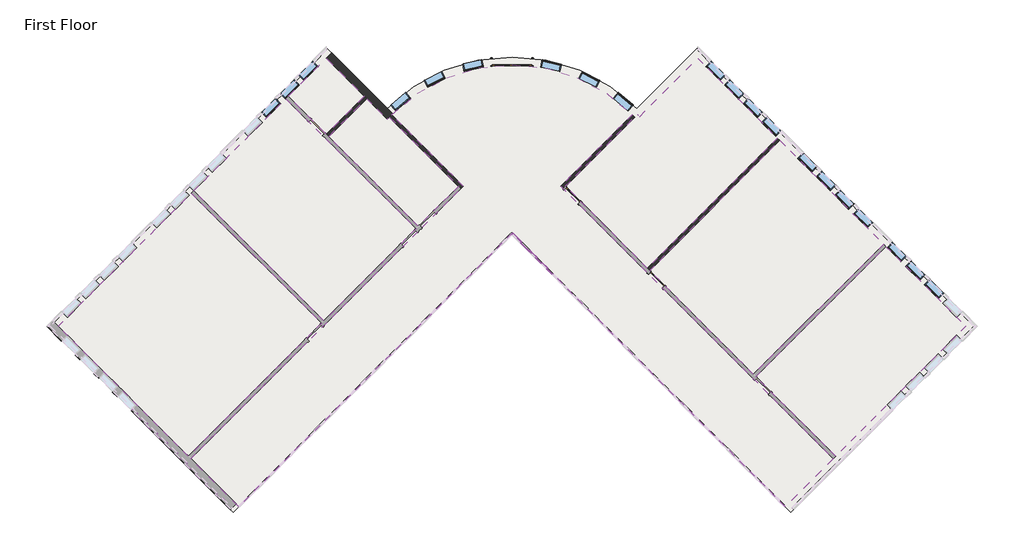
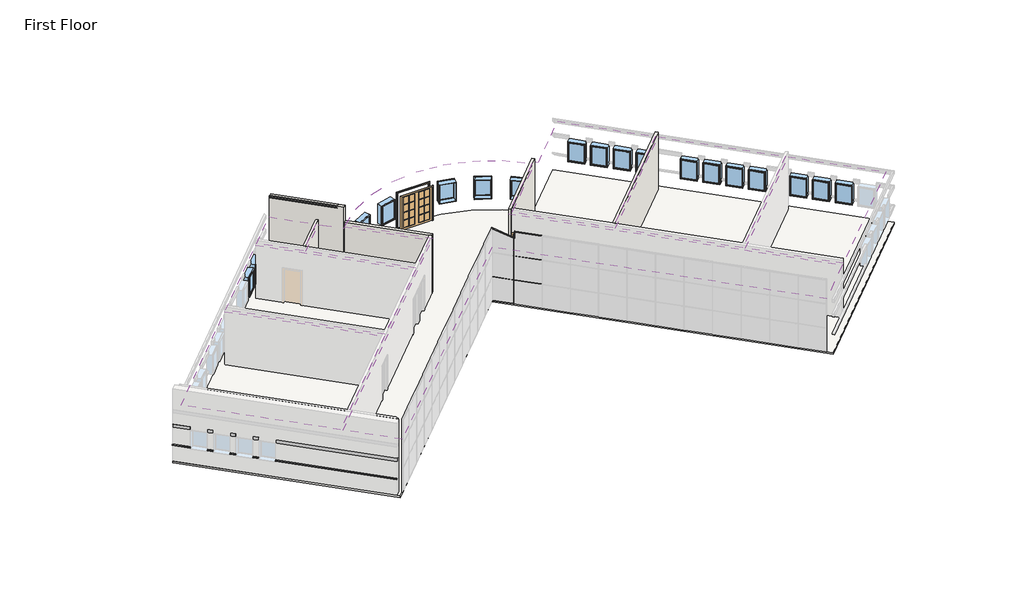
# One storey, part 4 of 5: 20 windows, 14 members, 8 coverings, 5 walls, 3 doors, 2 proxies, 1 slab.
"""IFC4 building model written with IfcOpenShell, lengths in millimetres."""

from ifc_helpers import new_model, si_unit, point, frame, frame_2d, origin, origin_with_axes, place, context, project, spatial, polyline, circle_curve, ellipse_curve, trimmed, segment, composite_curve, outline, extrude, faceted_brep, transform, mapped, element, save
from ifc_brep_helpers import plane_surface, cylinder_surface, revolved_surface, advanced_brep
from components import door_0a477ef8, door_5f5b55da, member_155beb68, member_42be4715, member_bd80eb51, member_a3731390, member_b87a50da, member_0f81cabc, member_76f0c52a, member_6675e4ca, member_9574b3de, member_b73a8a31, member_4ed907bf, window_15c49d37, window_0e2fc6ce

model = new_model("IFC4")

# Units and contexts
model_context = context("Model", 3, world=origin())
ifc_project = project(units=[si_unit("LENGTHUNIT", "METRE", prefix="MILLI")], contexts=[model_context])

# Site, building, storey
site = spatial("IfcSite", under=ifc_project)
building = spatial("IfcBuilding", under=site)
storey = spatial("IfcBuildingStorey", under=building, Name="First Floor", Elevation=0.0)

# Proxies
placement = place(None, origin())
element("IfcBuildingElementProxy", 1, Name="Wall Sweeps", at=placement, inside=storey, context=model_context, shape_type="Brep", body=[
    faceted_brep([(-15859.0913754, -9789.3274758, 1085.85), (-15924.1982323, -9854.4343326, 1085.85), (-15948.8939367, -9879.130037, 1041.4), (-15948.8939367, -9879.130037, 1016.0), (-15924.1982323, -9854.4343326, 1016.0), (-15859.0913754, -9789.3274758, 1016.0), (-20459.2275735, -5189.1912777, 1085.85), (-20459.2275735, -5189.1912777, 1016.0), (-20524.3344303, -5254.2981346, 1016.0), (-20549.0301347, -5278.993839, 1016.0), (-20549.0301347, -5278.993839, 1041.4), (-20524.3344303, -5254.2981346, 1085.85)], [[[0, 1, 2, 3, 4, 5]], [[6, 7, 8, 9, 10, 11]], [[1, 0, 6, 11]], [[2, 1, 11, 10]], [[3, 2, 10, 9]], [[5, 4, 3, 9, 8, 7]], [[0, 5, 7, 6]]]),
    faceted_brep([(-21105.8060142, -4542.612837, 1085.85), (-21170.9128711, -4607.7196939, 1085.85), (-21195.6085754, -4632.4153982, 1041.4), (-21195.6085754, -4632.4153982, 1016.0), (-21170.9128711, -4607.7196939, 1016.0), (-21105.8060142, -4542.612837, 1016.0), (-21321.3321611, -4327.0866901, 1085.85), (-21321.3321611, -4327.0866901, 1016.0), (-21386.439018, -4392.193547, 1016.0), (-21411.1347223, -4416.8892513, 1016.0), (-21411.1347223, -4416.8892513, 1041.4), (-21386.439018, -4392.193547, 1085.85)], [[[0, 1, 2, 3, 4, 5]], [[6, 7, 8, 9, 10, 11]], [[1, 0, 6, 11]], [[2, 1, 11, 10]], [[3, 2, 10, 9]], [[5, 4, 3, 9, 8, 7]], [[0, 5, 7, 6]]]),
    faceted_brep([(-21967.9106018, -3680.5082494, 1085.85), (-22033.0174587, -3745.6151063, 1085.85), (-22057.713163, -3770.3108106, 1041.4), (-22057.713163, -3770.3108106, 1016.0), (-22033.0174587, -3745.6151063, 1016.0), (-21967.9106018, -3680.5082494, 1016.0), (-22183.4367487, -3464.9821025, 1085.85), (-22183.4367487, -3464.9821025, 1016.0), (-22248.5436056, -3530.0889594, 1016.0), (-22273.2393099, -3554.7846637, 1016.0), (-22273.2393099, -3554.7846637, 1041.4), (-22248.5436056, -3530.0889594, 1085.85)], [[[0, 1, 2, 3, 4, 5]], [[6, 7, 8, 9, 10, 11]], [[1, 0, 6, 11]], [[2, 1, 11, 10]], [[3, 2, 10, 9]], [[5, 4, 3, 9, 8, 7]], [[0, 5, 7, 6]]]),
    faceted_brep([(-22830.0151894, -2818.4036618, 1085.85), (-22895.1220463, -2883.5105187, 1085.85), (-22919.8177506, -2908.206223, 1041.4), (-22919.8177506, -2908.206223, 1016.0), (-22895.1220463, -2883.5105187, 1016.0), (-22830.0151894, -2818.4036618, 1016.0), (-23045.5413363, -2602.8775149, 1085.85), (-23045.5413363, -2602.8775149, 1016.0), (-23110.6481932, -2667.9843718, 1016.0), (-23135.3438975, -2692.6800761, 1016.0), (-23135.3438975, -2692.6800761, 1041.4), (-23110.6481932, -2667.9843718, 1085.85)], [[[0, 1, 2, 3, 4, 5]], [[6, 7, 8, 9, 10, 11]], [[1, 0, 6, 11]], [[2, 1, 11, 10]], [[3, 2, 10, 9]], [[5, 4, 3, 9, 8, 7]], [[0, 5, 7, 6]]]),
    faceted_brep([(-23692.119777, -1956.2990742, 1085.85), (-23757.2266339, -2021.405931, 1085.85), (-23781.9223383, -2046.1016354, 1041.4), (-23781.9223383, -2046.1016354, 1016.0), (-23757.2266339, -2021.405931, 1016.0), (-23692.119777, -1956.2990742, 1016.0), (-24290.4293411, -1357.9895101, 1085.85), (-24290.4293411, -1357.9895101, 1016.0), (-24470.0344635, -1357.9895101, 1016.0), (-24470.0344635, -1357.9895101, 1041.4), (-24420.6430549, -1357.9895101, 1085.85)], [[[0, 1, 2, 3, 4, 5]], [[6, 7, 8, 9, 10]], [[1, 0, 6, 10]], [[2, 1, 10, 9]], [[3, 2, 9, 8]], [[5, 4, 3, 8, 7]], [[0, 5, 7, 6]]]),
])
element("IfcBuildingElementProxy", 2, Name="Wall Sweeps", at=placement, inside=storey, context=model_context, shape_type="SweptSolid", body=[
    extrude(outline(polyline([(-15859.0913754, -9789.3274758), (-15924.1982323, -9854.4343326), (-20524.3344303, -5254.2981346), (-20459.2275735, -5189.1912777), (-15859.0913754, -9789.3274758)])), frame((0.0, 0.0, 2133.6), z_axis=(0.0, 0.0, 1.0), x_axis=(1.0, 0.0, 0.0)), (0.0, 0.0, 1.0), 203.2),
    extrude(outline(polyline([(-21105.8060142, -4542.612837), (-21170.9128711, -4607.7196939), (-21386.439018, -4392.193547), (-21321.3321611, -4327.0866901), (-21105.8060142, -4542.612837)])), frame((0.0, 0.0, 2133.6), z_axis=(0.0, 0.0, 1.0), x_axis=(1.0, 0.0, 0.0)), (0.0, 0.0, 1.0), 203.2),
    extrude(outline(polyline([(-21967.9106018, -3680.5082494), (-22033.0174587, -3745.6151063), (-22248.5436056, -3530.0889594), (-22183.4367487, -3464.9821025), (-21967.9106018, -3680.5082494)])), frame((0.0, 0.0, 2133.6), z_axis=(0.0, 0.0, 1.0), x_axis=(1.0, 0.0, 0.0)), (0.0, 0.0, 1.0), 203.2),
    extrude(outline(polyline([(-22830.0151894, -2818.4036618), (-22895.1220463, -2883.5105187), (-23110.6481932, -2667.9843718), (-23045.5413363, -2602.8775149), (-22830.0151894, -2818.4036618)])), frame((0.0, 0.0, 2133.6), z_axis=(0.0, 0.0, 1.0), x_axis=(1.0, 0.0, 0.0)), (0.0, 0.0, 1.0), 203.2),
    extrude(outline(polyline([(-23692.119777, -1956.2990742), (-23757.2266339, -2021.405931), (-24420.6430549, -1357.9895101), (-24290.4293411, -1357.9895101), (-23692.119777, -1956.2990742)])), frame((0.0, 0.0, 2133.6), z_axis=(0.0, 0.0, 1.0), x_axis=(1.0, 0.0, 0.0)), (0.0, 0.0, 1.0), 203.2),
])

# Coverings
element("IfcCovering", 3, ObjectType="2' x 2' ACT System", at=placement, inside=storey, context=model_context, shape_type="SweptSolid", body=[
    extrude(outline(polyline([(-11706.7276692, -1216.4326939), (-17885.2616628, -7394.9666875), (-23922.2388402, -1357.9895101), (-17743.7048466, 4820.5444835), (-11706.7276692, -1216.4326939)])), frame((0.0, 0.0, 3352.8), z_axis=(0.0, 0.0, 1.0), x_axis=(1.0, 0.0, 0.0)), (0.0, 0.0, 1.0), 57.15),
])
element("IfcCovering", 4, ObjectType="2' x 2' ACT System", at=placement, inside=storey, context=model_context, shape_type="SweptSolid", body=[
    extrude(outline(polyline([(-17633.6967091, 4930.552621), (-13359.2125777, 9205.0367523), (-7322.2354004, 3168.0595749), (-11596.7195317, -1106.4245564), (-17633.6967091, 4930.552621)])), frame((0.0, 0.0, 3352.8), z_axis=(0.0, 0.0, 1.0), x_axis=(1.0, 0.0, 0.0)), (0.0, 0.0, 1.0), 57.15),
])
element("IfcCovering", 5, ObjectType="2' x 2' ACT System", at=placement, inside=storey, context=model_context, shape_type="SweptSolid", body=[
    extrude(outline(polyline([(-13249.2044403, 9315.0448898), (-11489.0742405, 11075.1750895), (-9728.9440408, 9315.0448898), (-11489.0742405, 7554.9146901), (-13249.2044403, 9315.0448898)])), frame((0.0, 0.0, 3352.8), z_axis=(0.0, 0.0, 1.0), x_axis=(1.0, 0.0, 0.0)), (0.0, 0.0, 1.0), 57.15),
])
element("IfcCovering", 6, ObjectType="2' x 2' ACT System", at=placement, inside=storey, context=model_context, shape_type="SweptSolid", body=[
    extrude(outline(composite_curve([segment(polyline([(-11379.066103, 7444.9065526), (-9618.9359033, 9205.0367523), (-8658.0122729, 8244.1131219)]), True, "CONTINUOUS"), segment(trimmed(circle_curve(frame_2d((-2868.0283643, 2903.1420194)), 7877.175), [point((-8658.0122729, 8244.1131219))], [point((-8557.7157352, 8350.8336041))], False, "CARTESIAN"), True, "CONTINUOUS"), segment(polyline([(-8557.7157352, 8350.8336041), (-5348.5885532, 5141.7064221), (-7212.2272629, 3278.0677124), (-11379.066103, 7444.9065526)]), True, "CONTINUOUS")], self_intersect=False)), frame((0.0, 0.0, 3352.8), z_axis=(0.0, 0.0, 1.0), x_axis=(1.0, 0.0, 0.0)), (0.0, 0.0, 1.0), 57.15),
])
element("IfcCovering", 7, ObjectType="2' x 2' ACT System", at=placement, inside=storey, context=model_context, shape_type="SweptSolid", body=[
    extrude(outline(composite_curve([segment(polyline([(-607.4844504, 5141.7064221), (12039.1967967, -7504.974825), (9814.3383427, -9729.833279), (-2868.0283643, 2952.533428), (-15550.3950713, -9729.833279), (-17775.2535253, -7504.974825), (-5128.5722782, 5141.7064221), (-8449.0111375, 8462.1452813)]), True, "CONTINUOUS"), segment(trimmed(circle_curve(frame_2d((-2868.0283643, 2903.1420194)), 7877.175), [point((-8449.0111375, 8462.1452813))], [point((2712.9544089, 8462.1452813))], False, "CARTESIAN"), True, "CONTINUOUS"), segment(polyline([(2712.9544089, 8462.1452813), (-607.4844504, 5141.7064221)]), True, "CONTINUOUS")], self_intersect=False)), frame((0.0, 0.0, 3352.8), z_axis=(0.0, 0.0, 1.0), x_axis=(1.0, 0.0, 0.0)), (0.0, 0.0, 1.0), 57.15),
])
element("IfcCovering", 8, ObjectType="2' x 2' ACT System", at=placement, inside=storey, context=model_context, shape_type="SweptSolid", body=[
    extrude(outline(polyline([(2947.192033, 8476.3666305), (3050.2065213, 8372.3640989), (5753.0175119, 11075.1750895), (9452.8830338, 7375.3095676), (3415.9058564, 1338.3323903), (-387.4681754, 5141.7064221), (2947.192033, 8476.3666305)])), frame((0.0, 0.0, 3352.8), z_axis=(0.0, 0.0, 1.0), x_axis=(1.0, 0.0, 0.0)), (0.0, 0.0, 1.0), 57.15),
])
element("IfcCovering", 9, ObjectType="2' x 2' ACT System", at=placement, inside=storey, context=model_context, shape_type="SweptSolid", body=[
    extrude(outline(polyline([(3525.9139939, 1228.3242528), (9562.8911713, 7265.3014302), (14376.3084522, 2451.8841493), (8339.3312748, -3585.0930281), (3525.9139939, 1228.3242528)])), frame((0.0, 0.0, 3352.8), z_axis=(0.0, 0.0, 1.0), x_axis=(1.0, 0.0, 0.0)), (0.0, 0.0, 1.0), 57.15),
])
element("IfcCovering", 10, ObjectType="2' x 2' ACT System", at=placement, inside=storey, context=model_context, shape_type="SweptSolid", body=[
    extrude(outline(polyline([(8449.3394123, -3695.1011656), (14486.3165897, 2341.8760118), (18186.1821115, -1357.9895101), (12149.2049342, -7394.9666875), (8449.3394123, -3695.1011656)])), frame((0.0, 0.0, 3352.8), z_axis=(0.0, 0.0, 1.0), x_axis=(1.0, 0.0, 0.0)), (0.0, 0.0, 1.0), 57.15),
])

# Doors
door_shape = door_0a477ef8(model_context)
element("IfcDoor", 11, ObjectType="Double-Glass 2 : 72\" x 84\"", at=placement, inside=storey, context=model_context, shape_type="MappedRepresentation", body=[
    mapped(door_shape, transform((-2868.7603243, 10905.5717204, 0.0), x_axis=(-0.9999999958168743, -9.146721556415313e-05, 0.0), y_axis=(9.146721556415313e-05, -0.9999999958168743, 0.0), z_axis=(0.0, 0.0, 1.0))),
])
door_2_shape = door_5f5b55da(model_context)
element("IfcDoor", 12, ObjectType="Single-Glass 1 : 36\" x 84\"", at=placement, inside=storey, context=model_context, shape_type="MappedRepresentation", body=[
    mapped(door_2_shape, transform((-66.4240191, 4710.6541283, 0.0), x_axis=(-0.7071067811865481, 0.7071067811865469, 0.0), y_axis=(-0.7071067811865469, -0.7071067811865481, 0.0), z_axis=(0.0, 0.0, 1.0))),
])
element("IfcDoor", 13, ObjectType="Single-Glass 1 : 36\" x 84\"", at=placement, inside=storey, context=model_context, shape_type="MappedRepresentation", body=[
    mapped(door_2_shape, transform((3846.9581502, 797.271959, 0.0), x_axis=(-0.7071067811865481, 0.7071067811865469, 0.0), y_axis=(-0.7071067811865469, -0.7071067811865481, 0.0), z_axis=(0.0, 0.0, 1.0))),
])

# Members
member_shape = member_155beb68(model_context)
element("IfcMember", 14, ObjectType="Rectangular Mullion : 1.5\" x 2.5\" Rectangular", at=placement, inside=storey, context=model_context, shape_type="MappedRepresentation", body=[
    mapped(member_shape, transform((-2039.5997371, 2124.1048009, 1524.0), x_axis=(-0.7071067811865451, 0.70710678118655, 0.0), y_axis=(0.70710678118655, 0.7071067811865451, 0.0), z_axis=(0.0, 0.0, -1.0))),
])
element("IfcMember", 15, ObjectType="Rectangular Mullion : 1.5\" x 2.5\" Rectangular", at=placement, inside=storey, context=model_context, shape_type="MappedRepresentation", body=[
    mapped(member_shape, transform((-2039.5997371, 2124.1048009, 0.0), x_axis=(-0.7071067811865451, 0.70710678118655, 0.0), y_axis=(0.70710678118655, 0.7071067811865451, 0.0), z_axis=(0.0, 0.0, -1.0))),
])
member_2_shape = member_42be4715(model_context)
element("IfcMember", 16, ObjectType="Rectangular Mullion : 1.5\" x 2.5\" Rectangular", at=placement, inside=storey, context=model_context, shape_type="MappedRepresentation", body=[
    mapped(member_2_shape, transform((-2026.129353, 2110.6344167, 3048.0), x_axis=(0.0, 0.0, 1.0), y_axis=(0.7071067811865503, 0.7071067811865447, 0.0), z_axis=(-0.7071067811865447, 0.7071067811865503, 0.0))),
])
element("IfcMember", 17, ObjectType="Rectangular Mullion : 1.5\" x 2.5\" Rectangular", at=placement, inside=storey, context=model_context, shape_type="MappedRepresentation", body=[
    mapped(member_2_shape, transform((-2026.129353, 2110.6344167, 1524.0), x_axis=(0.0, 0.0, 1.0), y_axis=(0.7071067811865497, 0.7071067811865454, 0.0), z_axis=(-0.7071067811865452, 0.7071067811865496, 0.0))),
])
member_3_shape = member_bd80eb51(model_context)
element("IfcMember", 18, ObjectType="Rectangular Mullion : 1.5\" x 2.5\" Rectangular", at=placement, inside=storey, context=model_context, shape_type="MappedRepresentation", body=[
    mapped(member_3_shape, transform((-2053.0701213, 2137.575185, 0.0), x_axis=(0.0, 0.0, -1.0), y_axis=(0.7071067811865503, 0.7071067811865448, 0.0), z_axis=(0.7071067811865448, -0.7071067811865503, 0.0))),
])
member_4_shape = member_a3731390(model_context)
element("IfcMember", 19, ObjectType="Rectangular Mullion : 1.5\" x 2.5\" Rectangular", at=placement, inside=storey, context=model_context, shape_type="MappedRepresentation", body=[
    mapped(member_4_shape, transform((-2841.0875959, 2925.5926597, 1524.0), x_axis=(0.0, 0.0, 1.0), y_axis=(0.7071067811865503, 0.7071067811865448, 0.0), z_axis=(-0.7071067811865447, 0.7071067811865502, 0.0))),
])
member_5_shape = member_b87a50da(model_context)
element("IfcMember", 20, ObjectType="Rectangular Mullion : 1.5\" x 2.5\" Rectangular", at=placement, inside=storey, context=model_context, shape_type="MappedRepresentation", body=[
    mapped(member_5_shape, transform((-2868.0283643, 2952.533428, 0.0), x_axis=(-0.7071067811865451, 0.70710678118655, 0.0), y_axis=(0.70710678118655, 0.7071067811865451, 0.0), z_axis=(0.0, 0.0, -1.0))),
])
element("IfcMember", 21, ObjectType="Rectangular Mullion : 1.5\" x 2.5\" Rectangular", at=placement, inside=storey, context=model_context, shape_type="MappedRepresentation", body=[
    mapped(member_5_shape, transform((-2868.0283643, 2952.533428, 1524.0), x_axis=(-0.7071067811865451, 0.70710678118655, 0.0), y_axis=(0.70710678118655, 0.7071067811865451, 0.0), z_axis=(0.0, 0.0, -1.0))),
])
member_6_shape = member_0f81cabc(model_context)
element("IfcMember", 22, ObjectType="Rectangular Mullion : 1.5\" x 2.5\" Rectangular", at=placement, inside=storey, context=model_context, shape_type="MappedRepresentation", body=[
    mapped(member_6_shape, transform((-2039.5997371, 2124.1048009, 4181.475), x_axis=(0.22360679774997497, -0.2236067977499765, 0.9486832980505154), y_axis=(0.7071067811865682, 0.7071067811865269, 0.0), z_axis=(-0.6708203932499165, 0.6708203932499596, 0.31622776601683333))),
])
member_7_shape = member_76f0c52a(model_context)
element("IfcMember", 23, ObjectType="Rectangular Mullion : 1.5\" x 2.5\" Rectangular", at=placement, inside=storey, context=model_context, shape_type="MappedRepresentation", body=[
    mapped(member_7_shape, transform((-2868.0283643, 2952.533428, 4572.0), x_axis=(0.2236067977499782, -0.2236067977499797, 0.9486832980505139), y_axis=(0.7071067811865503, 0.7071067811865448, 0.0), z_axis=(-0.6708203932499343, 0.6708203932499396, 0.3162277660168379))),
])
member_8_shape = member_6675e4ca(model_context)
element("IfcMember", 24, ObjectType="Rectangular Mullion : 1.5\" x 2.5\" Rectangular", at=placement, inside=storey, context=model_context, shape_type="MappedRepresentation", body=[
    mapped(member_8_shape, transform((-2005.9237767, 2090.4288404, 4165.6), x_axis=(-0.7071067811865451, 0.70710678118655, 0.0), y_axis=(0.70710678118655, 0.7071067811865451, 0.0), z_axis=(0.0, 0.0, -1.0))),
])
member_9_shape = member_9574b3de(model_context)
element("IfcMember", 25, ObjectType="Rectangular Mullion : 1.5\" x 2.5\" Rectangular", at=placement, inside=storey, context=model_context, shape_type="MappedRepresentation", body=[
    mapped(member_9_shape, transform((-1978.9830083, 2063.488072, 4572.0), x_axis=(0.0, 0.0, 1.0), y_axis=(0.707106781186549, 0.707106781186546, 0.0), z_axis=(-0.7071067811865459, 0.7071067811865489, 0.0))),
])
member_10_shape = member_b73a8a31(model_context)
element("IfcMember", 26, ObjectType="Rectangular Mullion : 1.5\" x 2.5\" Rectangular", at=placement, inside=storey, context=model_context, shape_type="MappedRepresentation", body=[
    mapped(member_10_shape, transform((-2039.5997371, 2124.1048009, 3048.0), x_axis=(-0.7071067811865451, 0.70710678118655, 0.0), y_axis=(0.70710678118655, 0.7071067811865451, 0.0), z_axis=(0.0, 0.0, -1.0))),
])
member_11_shape = member_4ed907bf(model_context)
element("IfcMember", 27, ObjectType="Rectangular Mullion : 1.5\" x 2.5\" Rectangular", at=placement, inside=storey, context=model_context, shape_type="MappedRepresentation", body=[
    mapped(member_11_shape, transform((-2868.0283643, 2952.533428, 3048.0), x_axis=(-0.7071067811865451, 0.70710678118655, 0.0), y_axis=(0.70710678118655, 0.7071067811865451, 0.0), z_axis=(0.0, 0.0, -1.0))),
])

# Slab
element("IfcSlab", 28, ObjectType="4\" Concrete Slab", at=placement, inside=storey, context=model_context, shape_type="SweptSolid", body=[
    extrude(outline(composite_curve([segment(polyline([(2926.4294954, 8746.9912878), (5753.0175119, 11573.5793042), (18684.5863263, -1357.9895101), (10063.54045, -9979.0353863), (-2868.0283643, 2952.533428), (-15799.5971786, -9979.0353863), (-24420.6430549, -1357.9895101), (-11489.0742405, 11573.5793042), (-8662.486224, 8746.9912878)]), True, "CONTINUOUS"), segment(trimmed(circle_curve(frame_2d((-2868.0283643, 2903.1420194)), 8229.6), [point((-8662.486224, 8746.9912878))], [point((2926.4294954, 8746.9912878))], False, "CARTESIAN"), True, "CONTINUOUS")], self_intersect=False)), frame((0.0, 0.0, -101.6), z_axis=(0.0, 0.0, 1.0), x_axis=(1.0, 0.0, 0.0)), (0.0, 0.0, 1.0), 101.6),
])

# Walls
element("IfcWall", 29, ObjectType="Exterior - Split Face and CMU on Mtl. Stud", at=placement, inside=storey, context=model_context, shape_type="AdvancedBrep", body=[
    advanced_brep(
    [(-11489.0742405, 11075.1750895, 0.0), (-9728.9440408, 9315.0448898, 0.0), (-9618.9359033, 9205.0367523, 0.0), (-8658.0122729, 8244.1131219, 0.0), (-8658.0122729, 8244.1131219, 4689.475), (-11489.0742405, 11075.1750895, 4689.475), (-11489.0742405, 11075.1750895, 4639.3965909), (-8911.6883314, 8497.7891804, 4639.3965909), (-8911.6883314, 8497.7891804, 4572.0), (-11489.0742405, 11075.1750895, 4572.0), (-8413.2817722, 8497.7868359, 4572.0), (-8413.2817722, 8497.7868359, 0.0), (-8662.486224, 8746.9912878, 0.0), (-11239.8721332, 11324.3771969, 0.0), (-11239.8721332, 11324.3771969, 1016.0), (-8662.486224, 8746.9912878, 1016.0), (-8597.3787742, 8681.8838379, 1016.0), (-8597.3787742, 8681.8838379, 1085.85), (-8662.486224, 8746.9912878, 1085.85), (-11239.8721332, 11324.3771969, 1085.85), (-11239.8721332, 11324.3771969, 2133.6), (-8662.486224, 8746.9912878, 2133.6), (-8597.3787742, 8681.8838379, 2133.6), (-8597.3787742, 8681.8838379, 2336.8), (-8662.486224, 8746.9912878, 2336.8), (-11239.8721332, 11324.3771969, 2336.8), (-11239.8721332, 11324.3771969, 3048.0), (-8662.486224, 8746.9912878, 3048.0), (-8597.3787742, 8681.8838379, 3048.0), (-8597.3787742, 8681.8838379, 3251.2), (-8662.486224, 8746.9912878, 3251.2), (-11239.8721332, 11324.3771969, 3251.2), (-11239.8721332, 11324.3771969, 4572.0), (-8662.486224, 8746.9912878, 4572.0), (-8557.713594, 8350.8358404, 0.0), (-8478.2967797, 8432.5881297, 0.0), (-8449.0111375, 8462.1452813, 0.0), (-11304.9789901, 11259.27034, 0.0), (-11304.9789901, 11259.27034, 3251.2), (-11304.9789901, 11259.27034, 3048.0), (-11304.9789901, 11259.27034, 2336.8), (-11304.9789901, 11259.27034, 2133.6), (-11304.9789901, 11259.27034, 1085.85), (-11304.9789901, 11259.27034, 1016.0), (-11413.683542, 11150.5657881, 4653.9354839), (-8836.2976328, 8573.179879, 4653.9354839), (-8662.3967205, 8616.6880705, 1085.85), (-8662.3967205, 8616.6880705, 1016.0), (-8662.3967205, 8616.6880705, 2336.8), (-8662.3967205, 8616.6880705, 2133.6), (-8662.3967205, 8616.6880705, 3251.2), (-8662.3967205, 8616.6880705, 3048.0)],
    [
        (0, 1),
        (1, 2),
        (2, 3),
        (3, 4),
        (4, 5),
        (5, 6),
        (6, 7),
        (7, 8),
        (8, 9),
        (9, 0),
        (10, 11),
        (11, 12),
        (12, 13),
        (13, 14),
        (14, 15),
        (15, 16),
        (16, 17),
        (17, 18),
        (18, 19),
        (19, 20),
        (20, 21),
        (21, 22),
        (22, 23),
        (23, 24),
        (24, 25),
        (25, 26),
        (26, 27),
        (27, 28),
        (28, 29),
        (29, 30),
        (30, 31),
        (31, 32),
        (32, 33),
        (33, 10),
        (3, 34, circle_curve(frame((-2868.0283643, 2903.1420194, 0.0), z_axis=(0.0, 0.0, -1.0), x_axis=(1.0, 0.0, 0.0)), 7877.175)),
        (34, 35, circle_curve(frame((-2868.0283643, 2903.1420194, 0.0), z_axis=(0.0, 0.0, -1.0), x_axis=(1.0, 0.0, 0.0)), 7877.175)),
        (35, 36, circle_curve(frame((-2868.0283643, 2903.1420194, 0.0), z_axis=(0.0, 0.0, -1.0), x_axis=(1.0, 0.0, 0.0)), 7877.175)),
        (36, 11, circle_curve(frame((-2868.0283643, 2903.1420194, 0.0), z_axis=(0.0, 0.0, -1.0), x_axis=(1.0, 0.0, 0.0)), 7877.175)),
        (10, 4, ellipse_curve(frame((-2868.0283643, 2903.1420194, 4583.6416667), z_axis=(0.2236067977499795, 0.22360679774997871, 0.9486832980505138), x_axis=(0.6708203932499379, 0.6708203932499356, -0.31622776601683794)), 8303.2715092, 7877.175)),
        (37, 0),
        (9, 32),
        (31, 38),
        (38, 39),
        (39, 26),
        (25, 40),
        (40, 41),
        (41, 20),
        (19, 42),
        (42, 43),
        (43, 14),
        (13, 37),
        (5, 44),
        (44, 6),
        (33, 45),
        (45, 44),
        (37, 35),
        (46, 47),
        (47, 43),
        (42, 46),
        (17, 46, circle_curve(frame((-2868.0283643, 2903.1420194, 1085.85), z_axis=(0.0, 0.0, 1.0), x_axis=(-0.7040995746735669, 0.7101012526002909, 0.0)), 8137.525)),
        (47, 16, circle_curve(frame((-2868.0283643, 2903.1420194, 1016.0), z_axis=(0.0, 0.0, -1.0), x_axis=(-0.7040995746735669, 0.7101012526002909, 0.0)), 8137.525)),
        (48, 49),
        (49, 41),
        (40, 48),
        (49, 22, circle_curve(frame((-2868.0283643, 2903.1420194, 2133.6), z_axis=(0.0, 0.0, -1.0), x_axis=(-0.7120553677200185, 0.70212331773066, 0.0)), 8137.525)),
        (48, 23, circle_curve(frame((-2868.0283643, 2903.1420194, 2336.8), z_axis=(0.0, 0.0, -1.0), x_axis=(-0.7120553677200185, 0.70212331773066, 0.0)), 8137.525)),
        (50, 51),
        (51, 39),
        (38, 50),
        (51, 28, circle_curve(frame((-2868.0283643, 2903.1420194, 3048.0), z_axis=(0.0, 0.0, -1.0), x_axis=(-0.7120553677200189, 0.7021233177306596, 0.0)), 8137.525)),
        (50, 29, circle_curve(frame((-2868.0283643, 2903.1420194, 3251.2), z_axis=(0.0, 0.0, -1.0), x_axis=(-0.7120553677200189, 0.7021233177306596, 0.0)), 8137.525)),
        (8, 33),
        (7, 45),
    ],
    [
        plane_surface(frame((-11738.2763479, 11324.3771969, 0.0), z_axis=(-0.7071067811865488, -0.7071067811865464, 0.0), x_axis=(0.7071067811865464, -0.7071067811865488, 0.0))),
        plane_surface(frame((-11489.0742405, 11573.5793042, 0.0), z_axis=(0.7071067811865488, 0.7071067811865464, 0.0), x_axis=(-0.7071067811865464, 0.7071067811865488, 0.0))),
        revolved_surface(polyline([(5009.146635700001, 2903.1420194, 0.0), (5009.146635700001, 2903.1420194, 7209.366666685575)]), (-2868.0283643, 2903.1420194, 0.0), (0.0, 0.0, -1.0)),
        plane_surface(frame((-24171.4409475, -1607.1916175, 0.0), z_axis=(-0.7071067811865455, 0.7071067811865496, 0.0), x_axis=(0.7071067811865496, 0.7071067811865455, 0.0))),
        plane_surface(frame((-1143.8191891, 2952.533428, 4165.6), z_axis=(0.2236067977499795, 0.22360679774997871, 0.9486832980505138), x_axis=(-0.7071067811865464, 0.7071067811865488, 0.0))),
        plane_surface(frame((-11613.6752942, 11199.7761432, 0.0), z_axis=(0.0, 0.0, -1.0000000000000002), x_axis=(0.7071067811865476, 0.7071067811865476, 0.0))),
        plane_surface(frame((0.0, 0.0, 0.0), z_axis=(0.0, 0.0, -1.0), x_axis=(1.0, 0.0, 0.0))),
        plane_surface(frame((-11489.0742405, 11443.3655905, 1016.0), z_axis=(0.7071067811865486, 0.7071067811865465, 0.0), x_axis=(0.7071067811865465, -0.7071067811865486, 0.0))),
        plane_surface(frame((-2868.0283643, 2903.1420194, 1085.85), z_axis=(0.0, 0.0, -1.0), x_axis=(-0.7040995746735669, 0.7101012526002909, 0.0))),
        plane_surface(frame((-2868.0283643, 2903.1420194, 1016.0), z_axis=(0.0, 0.0, 1.0), x_axis=(-0.7040995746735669, 0.7101012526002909, 0.0))),
        cylinder_surface(frame((-2868.0283643, 2903.1420194, 1016.0), z_axis=(0.0, 0.0, -1.0), x_axis=(-0.7040995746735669, 0.7101012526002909, 0.0)), 8137.525),
        plane_surface(frame((-11489.0742405, 11443.3655905, 2133.6), z_axis=(0.7071067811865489, 0.7071067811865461, 0.0), x_axis=(0.7071067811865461, -0.7071067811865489, 0.0))),
        plane_surface(frame((-2868.0283643, 2903.1420194, 2133.6), z_axis=(0.0, 0.0, 1.0), x_axis=(-0.7120553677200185, 0.70212331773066, 0.0))),
        cylinder_surface(frame((-2868.0283643, 2903.1420194, 2133.6), z_axis=(0.0, 0.0, -1.0), x_axis=(-0.7120553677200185, 0.70212331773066, 0.0)), 8137.525),
        plane_surface(frame((-2868.0283643, 2903.1420194, 2336.8), z_axis=(0.0, 0.0, -1.0), x_axis=(-0.7120553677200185, 0.70212331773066, 0.0))),
        plane_surface(frame((-11489.0742405, 11443.3655905, 3048.0), z_axis=(0.7071067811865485, 0.7071067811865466, 0.0), x_axis=(0.7071067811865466, -0.7071067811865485, 0.0))),
        plane_surface(frame((-2868.0283643, 2903.1420194, 3048.0), z_axis=(0.0, 0.0, 1.0), x_axis=(-0.7120553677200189, 0.7021233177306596, 0.0))),
        cylinder_surface(frame((-2868.0283643, 2903.1420194, 3048.0), z_axis=(0.0, 0.0, -1.0), x_axis=(-0.7120553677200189, 0.7021233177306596, 0.0)), 8137.525),
        plane_surface(frame((-2868.0283643, 2903.1420194, 3251.2), z_axis=(0.0, 0.0, -1.0), x_axis=(-0.7120553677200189, 0.7021233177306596, 0.0))),
        plane_surface(frame((-24438.6035671, -1340.0289979, 4572.0), z_axis=(0.0, 0.0, 1.0), x_axis=(0.7071067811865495, 0.7071067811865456, 0.0))),
        plane_surface(frame((-8662.486224, 8746.9912878, 4185.7445793), z_axis=(-0.7071067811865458, 0.7071067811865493, 0.0), x_axis=(0.7071067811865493, 0.7071067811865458, 0.0))),
        plane_surface(frame((-11489.0742405, 11034.763937, 4635.5), z_axis=(0.09553946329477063, 0.09553946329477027, -0.9908301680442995), x_axis=(0.7071067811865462, -0.7071067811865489, 0.0))),
    ],
    [
        (0, [[1, 2, 3, 4, 5, 6, 7, 8, 9, 10]]),
        (1, [[11, 12, 13, 14, 15, 16, 17, 18, 19, 20, 21, 22, 23, 24, 25, 26, 27, 28, 29, 30, 31, 32, 33, 34]]),
        (2, [[-4, 35, 36, 37, 38, -11, 39]]),
        (3, [[40, -10, 41, -32, 42, 43, 44, -26, 45, 46, 47, -20, 48, 49, 50, -14, 51]]),
        (3, [[-6, 52, 53]]),
        (4, [[-5, -39, -34, 54, 55, -52]]),
        (5, [[-3, -2, -1, -40, 56, -36, -35]]),
        (6, [[-51, -13, -12, -38, -37, -56]]),
        (7, [[57, 58, -49, 59]]),
        (8, [[60, -59, -48, -19, -18]]),
        (9, [[-58, 61, -16, -15, -50]]),
        (10, [[-57, -60, -17, -61]]),
        (11, [[62, 63, -46, 64]]),
        (12, [[-63, 65, -22, -21, -47]]),
        (13, [[-62, 66, -23, -65]]),
        (14, [[-66, -64, -45, -25, -24]]),
        (15, [[67, 68, -43, 69]]),
        (16, [[-68, 70, -28, -27, -44]]),
        (17, [[-67, 71, -29, -70]]),
        (18, [[-71, -69, -42, -31, -30]]),
        (19, [[72, -33, -41, -9]]),
        (20, [[73, -54, -72, -8]]),
        (21, [[-73, -7, -53, -55]]),
    ],
),
])
element("IfcWall", 30, ObjectType="Interior - 6 1/8\" Partition (2-hr)", at=placement, inside=storey, context=model_context, shape_type="AdvancedBrep", body=[
    advanced_brep(
    [(-5128.5722782, 5141.7064221, 0.0), (-8449.0111375, 8462.1452813, 0.0), (-8449.0111375, 8462.1452813, 3657.6), (-5128.5722782, 5141.7064221, 3657.6), (-5238.5804157, 5031.6982846, 0.0), (-5238.5804157, 5031.6982846, 3657.6), (-5348.5885532, 5141.7064221, 3657.6), (-8557.7157352, 8350.8336041, 3657.6), (-8557.7157352, 8350.8336041, 0.0), (-5348.5885532, 5141.7064221, 0.0)],
    [
        (0, 1),
        (1, 2),
        (2, 3),
        (3, 0),
        (4, 5),
        (5, 6),
        (6, 7),
        (7, 8),
        (8, 9),
        (9, 4),
        (0, 4),
        (8, 1, circle_curve(frame((-2868.0283643, 2903.1420194, 0.0), z_axis=(0.0, 0.0, -1.0), x_axis=(1.0, 0.0, 0.0)), 7877.175)),
        (2, 7, circle_curve(frame((-2868.0283643, 2903.1420194, 3657.6), z_axis=(0.0, 0.0, 1.0), x_axis=(1.0, 0.0, 0.0)), 7877.175)),
        (5, 3),
    ],
    [
        plane_surface(frame((-5183.576347, 5196.7104908, 0.0), z_axis=(0.7071067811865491, 0.7071067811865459, 0.0), x_axis=(-0.7071067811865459, 0.7071067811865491, 0.0))),
        plane_surface(frame((-5293.5844845, 5086.7023533, 0.0), z_axis=(-0.7071067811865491, -0.7071067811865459, 0.0), x_axis=(0.7071067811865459, -0.7071067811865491, 0.0))),
        plane_surface(frame((-5183.576347, 5196.7104908, 0.0), z_axis=(0.0, 0.0, -1.0), x_axis=(-0.707106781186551, -0.7071067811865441, 0.0))),
        plane_surface(frame((-8573.2406241, 8586.374768, 3657.6), z_axis=(0.0, 0.0, 1.0), x_axis=(-0.707106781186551, -0.7071067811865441, 0.0))),
        plane_surface(frame((-17899.854579, -7629.5758786, 0.0), z_axis=(0.7071067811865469, -0.7071067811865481, 0.0), x_axis=(0.7071067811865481, 0.7071067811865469, 0.0))),
        cylinder_surface(frame((-2868.0283643, 2903.1420194, 0.0), z_axis=(0.0, 0.0, -1.0), x_axis=(1.0, 0.0, 0.0)), 7877.175),
    ],
    [
        (0, [[1, 2, 3, 4]]),
        (1, [[5, 6, 7, 8, 9, 10]]),
        (2, [[-1, 11, -10, -9, 12]]),
        (3, [[-3, 13, -7, -6, 14]]),
        (4, [[-4, -14, -5, -11]]),
        (5, [[-2, -12, -8, -13]]),
    ],
),
])
element("IfcWall", 31, ObjectType="Interior - 6 1/8\" Partition (2-hr)", at=placement, inside=storey, context=model_context, shape_type="SweptSolid", body=[
    extrude(outline(polyline([(-11489.0742405, 7554.9146901), (-9728.9440408, 9315.0448898), (-9618.9359033, 9205.0367523), (-11379.066103, 7444.9065526), (-11489.0742405, 7554.9146901)])), origin_with_axes(), (0.0, 0.0, 1.0), 3657.6),
])
element("IfcWall", 32, ObjectType="Interior - 6 1/8\" Partition (2-hr)", at=placement, inside=storey, context=model_context, shape_type="AdvancedBrep", body=[
    advanced_brep(
    [(-497.4763129, 5031.6982846, 0.0), (-387.4681754, 5141.7064221, 0.0), (2821.6590066, 8350.8336041, 0.0), (2821.6590066, 8350.8336041, 3657.6), (-387.4681754, 5141.7064221, 3657.6), (-497.4763129, 5031.6982846, 3657.6), (-607.4844504, 5141.7064221, 0.0), (-607.4844504, 5141.7064221, 3657.6), (2712.9544089, 8462.1452813, 3657.6), (2712.9544089, 8462.1452813, 0.0)],
    [
        (0, 1),
        (1, 2),
        (2, 3),
        (3, 4),
        (4, 5),
        (5, 0),
        (6, 7),
        (7, 8),
        (8, 9),
        (9, 6),
        (0, 6),
        (9, 2, circle_curve(frame((-2868.0283643, 2903.1420194, 0.0), z_axis=(0.0, 0.0, -1.0), x_axis=(1.0, 0.0, 0.0)), 7877.175)),
        (3, 8, circle_curve(frame((-2868.0283643, 2903.1420194, 3657.6), z_axis=(0.0, 0.0, 1.0), x_axis=(1.0, 0.0, 0.0)), 7877.175)),
        (7, 5),
    ],
    [
        plane_surface(frame((-442.4722441, 5086.7023533, 0.0), z_axis=(0.7071067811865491, -0.7071067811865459, 0.0), x_axis=(0.7071067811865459, 0.7071067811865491, 0.0))),
        plane_surface(frame((-552.4803816, 5196.7104908, 0.0), z_axis=(-0.7071067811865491, 0.7071067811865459, 0.0), x_axis=(-0.7071067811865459, -0.7071067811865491, 0.0))),
        plane_surface(frame((-442.4722441, 5086.7023533, 0.0), z_axis=(0.0, 0.0, -1.0), x_axis=(-0.707106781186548, 0.7071067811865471, 0.0))),
        plane_surface(frame((2947.192033, 8476.3666305, 3657.6), z_axis=(0.0, 0.0, 1.0000000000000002), x_axis=(-0.7071067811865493, 0.7071067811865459, 0.0))),
        plane_surface(frame((12163.7978503, -7629.5758786, 0.0), z_axis=(-0.7071067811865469, -0.7071067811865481, 0.0), x_axis=(0.7071067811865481, -0.7071067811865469, 0.0))),
        cylinder_surface(frame((-2868.0283643, 2903.1420194, 0.0), z_axis=(0.0, 0.0, -1.0), x_axis=(1.0, 0.0, 0.0)), 7877.175),
    ],
    [
        (0, [[1, 2, 3, 4, 5, 6]]),
        (1, [[7, 8, 9, 10]]),
        (2, [[-2, -1, 11, -10, 12]]),
        (3, [[-5, -4, 13, -8, 14]]),
        (4, [[-6, -14, -7, -11]]),
        (5, [[-3, -12, -9, -13]]),
    ],
),
])
element("IfcWall", 33, ObjectType="Interior - 6 1/8\" Partition (2-hr)", at=placement, inside=storey, context=model_context, shape_type="SweptSolid", body=[
    extrude(outline(polyline([(3415.9058564, 1338.3323903), (9452.8830338, 7375.3095676), (9562.8911713, 7265.3014302), (3525.9139939, 1228.3242528), (3415.9058564, 1338.3323903)])), origin_with_axes(), (0.0, 0.0, 1.0), 3657.6),
])

# Windows
window_shape = window_15c49d37(model_context)
element("IfcWindow", 34, ObjectType="Fixed : 36\" x 48\"", at=placement, inside=storey, context=model_context, shape_type="MappedRepresentation", body=[
    mapped(window_shape, transform((-8066.2237793, 9037.6928325, 0.0), x_axis=(-0.7659856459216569, -0.6428576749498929, 0.0), y_axis=(0.6428576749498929, -0.7659856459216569, 0.0), z_axis=(0.0, 0.0, 1.0))),
])
element("IfcWindow", 35, ObjectType="Fixed : 36\" x 48\"", at=placement, inside=storey, context=model_context, shape_type="MappedRepresentation", body=[
    mapped(window_shape, transform((-4714.6266038, 10728.998151, 0.0), x_axis=(-0.9743494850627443, -0.2250401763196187, 0.0), y_axis=(0.2250401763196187, -0.9743494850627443, 0.0), z_axis=(0.0, 0.0, 1.0))),
])
element("IfcWindow", 36, ObjectType="Fixed : 36\" x 48\"", at=placement, inside=storey, context=model_context, shape_type="MappedRepresentation", body=[
    mapped(window_shape, transform((-6490.5147795, 10081.6893252, 0.0), x_axis=(-0.8948935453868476, -0.4462796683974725, 0.0), y_axis=(0.4462796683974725, -0.8948935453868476, 0.0), z_axis=(0.0, 0.0, 1.0))),
])
element("IfcWindow", 37, ObjectType="Fixed : 36\" x 48\"", at=placement, inside=storey, context=model_context, shape_type="MappedRepresentation", body=[
    mapped(window_shape, transform((6554.2698062, 10523.1249026, 0.0), x_axis=(-0.7071067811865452, 0.7071067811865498, 0.0), y_axis=(-0.7071067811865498, -0.7071067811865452, 0.0), z_axis=(0.0, 0.0, 1.0))),
])
element("IfcWindow", 38, ObjectType="Fixed : 36\" x 48\"", at=placement, inside=storey, context=model_context, shape_type="MappedRepresentation", body=[
    mapped(window_shape, transform((7416.3743938, 9661.020315, 0.0), x_axis=(-0.7071067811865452, 0.7071067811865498, 0.0), y_axis=(-0.7071067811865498, -0.7071067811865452, 0.0), z_axis=(0.0, 0.0, 1.0))),
])
element("IfcWindow", 39, ObjectType="Fixed : 36\" x 48\"", at=placement, inside=storey, context=model_context, shape_type="MappedRepresentation", body=[
    mapped(window_shape, transform((8278.4789814, 8798.9157274, 0.0), x_axis=(-0.7071067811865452, 0.7071067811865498, 0.0), y_axis=(-0.7071067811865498, -0.7071067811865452, 0.0), z_axis=(0.0, 0.0, 1.0))),
])
element("IfcWindow", 40, ObjectType="Fixed : 36\" x 48\"", at=placement, inside=storey, context=model_context, shape_type="MappedRepresentation", body=[
    mapped(window_shape, transform((9140.583569, 7936.8111398, 0.0), x_axis=(-0.7071067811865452, 0.7071067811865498, 0.0), y_axis=(-0.7071067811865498, -0.7071067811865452, 0.0), z_axis=(0.0, 0.0, 1.0))),
])
window_2_shape = window_0e2fc6ce(model_context)
element("IfcWindow", 41, ObjectType="Fixed : 36\" x 48\"", at=placement, inside=storey, context=model_context, shape_type="MappedRepresentation", body=[
    mapped(window_2_shape, transform((-12290.3265348, 10523.1249026, 0.0), x_axis=(0.7071067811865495, 0.7071067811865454, 0.0), y_axis=(-0.7071067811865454, 0.7071067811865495, 0.0), z_axis=(0.0, 0.0, 1.0))),
])
element("IfcWindow", 42, ObjectType="Fixed : 36\" x 48\"", at=placement, inside=storey, context=model_context, shape_type="MappedRepresentation", body=[
    mapped(window_2_shape, transform((-13152.4311224, 9661.020315, 0.0), x_axis=(0.7071067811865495, 0.7071067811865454, 0.0), y_axis=(-0.7071067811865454, 0.7071067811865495, 0.0), z_axis=(0.0, 0.0, 1.0))),
])
element("IfcWindow", 43, ObjectType="Fixed : 36\" x 48\"", at=placement, inside=storey, context=model_context, shape_type="MappedRepresentation", body=[
    mapped(window_2_shape, transform((-14014.53571, 8798.9157274, 0.0), x_axis=(0.7071067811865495, 0.7071067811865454, 0.0), y_axis=(-0.7071067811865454, 0.7071067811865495, 0.0), z_axis=(0.0, 0.0, 1.0))),
])
element("IfcWindow", 44, ObjectType="Fixed : 36\" x 48\"", at=placement, inside=storey, context=model_context, shape_type="MappedRepresentation", body=[
    mapped(window_2_shape, transform((2271.4327875, 9086.2422995, 0.0), x_axis=(-0.765985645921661, 0.642857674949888, 0.0), y_axis=(-0.642857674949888, -0.765985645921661, 0.0), z_axis=(0.0, 0.0, 1.0))),
])
element("IfcWindow", 45, ObjectType="Fixed : 36\" x 48\"", at=placement, inside=storey, context=model_context, shape_type="MappedRepresentation", body=[
    mapped(window_2_shape, transform((-1095.8037333, 10745.5912454, 0.0), x_axis=(-0.9743494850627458, 0.2250401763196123, 0.0), y_axis=(-0.2250401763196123, -0.9743494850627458, 0.0), z_axis=(0.0, 0.0, 1.0))),
])
element("IfcWindow", 46, ObjectType="Fixed : 36\" x 48\"", at=placement, inside=storey, context=model_context, shape_type="MappedRepresentation", body=[
    mapped(window_2_shape, transform((686.0129721, 10115.1861252, 0.0), x_axis=(-0.8948935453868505, 0.44627966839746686, 0.0), y_axis=(-0.44627966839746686, -0.8948935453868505, 0.0), z_axis=(0.0, 0.0, 1.0))),
])
element("IfcWindow", 47, ObjectType="Fixed : 36\" x 48\"", at=placement, inside=storey, context=model_context, shape_type="MappedRepresentation", body=[
    mapped(window_2_shape, transform((16738.115812, 339.2788968, 0.0), x_axis=(0.7071067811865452, -0.7071067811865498, 0.0), y_axis=(0.7071067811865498, 0.7071067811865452, 0.0), z_axis=(0.0, 0.0, 1.0))),
])
element("IfcWindow", 48, ObjectType="Fixed : 36\" x 48\"", at=placement, inside=storey, context=model_context, shape_type="MappedRepresentation", body=[
    mapped(window_2_shape, transform((15876.0112244, 1201.3834844, 0.0), x_axis=(0.7071067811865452, -0.7071067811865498, 0.0), y_axis=(0.7071067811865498, 0.7071067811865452, 0.0), z_axis=(0.0, 0.0, 1.0))),
])
element("IfcWindow", 49, ObjectType="Fixed : 36\" x 48\"", at=placement, inside=storey, context=model_context, shape_type="MappedRepresentation", body=[
    mapped(window_2_shape, transform((15013.9066368, 2063.488072, 0.0), x_axis=(0.7071067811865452, -0.7071067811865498, 0.0), y_axis=(0.7071067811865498, 0.7071067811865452, 0.0), z_axis=(0.0, 0.0, 1.0))),
])
element("IfcWindow", 50, ObjectType="Fixed : 36\" x 48\"", at=placement, inside=storey, context=model_context, shape_type="MappedRepresentation", body=[
    mapped(window_2_shape, transform((13451.8134959, 3625.5812129, 0.0), x_axis=(0.7071067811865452, -0.7071067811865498, 0.0), y_axis=(0.7071067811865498, 0.7071067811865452, 0.0), z_axis=(0.0, 0.0, 1.0))),
])
element("IfcWindow", 51, ObjectType="Fixed : 36\" x 48\"", at=placement, inside=storey, context=model_context, shape_type="MappedRepresentation", body=[
    mapped(window_2_shape, transform((12589.7089082, 4487.6858006, 0.0), x_axis=(0.7071067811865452, -0.7071067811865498, 0.0), y_axis=(0.7071067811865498, 0.7071067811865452, 0.0), z_axis=(0.0, 0.0, 1.0))),
])
element("IfcWindow", 52, ObjectType="Fixed : 36\" x 48\"", at=placement, inside=storey, context=model_context, shape_type="MappedRepresentation", body=[
    mapped(window_2_shape, transform((11727.6043206, 5349.7903882, 0.0), x_axis=(0.7071067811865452, -0.7071067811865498, 0.0), y_axis=(0.7071067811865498, 0.7071067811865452, 0.0), z_axis=(0.0, 0.0, 1.0))),
])
element("IfcWindow", 53, ObjectType="Fixed : 36\" x 48\"", at=placement, inside=storey, context=model_context, shape_type="MappedRepresentation", body=[
    mapped(window_2_shape, transform((10865.499733, 6211.8949758, 0.0), x_axis=(0.7071067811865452, -0.7071067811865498, 0.0), y_axis=(0.7071067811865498, 0.7071067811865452, 0.0), z_axis=(0.0, 0.0, 1.0))),
])

save(model, "model.ifc")
